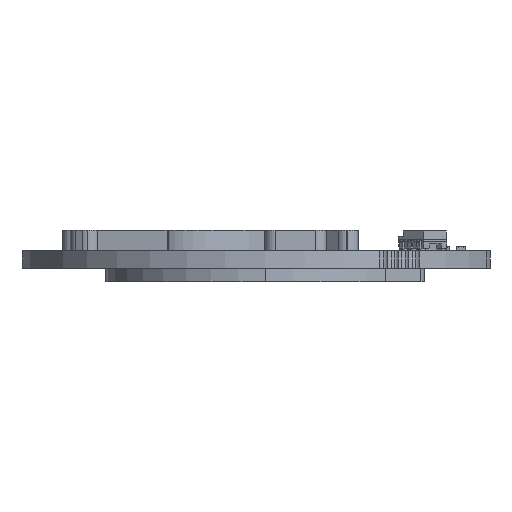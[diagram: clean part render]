
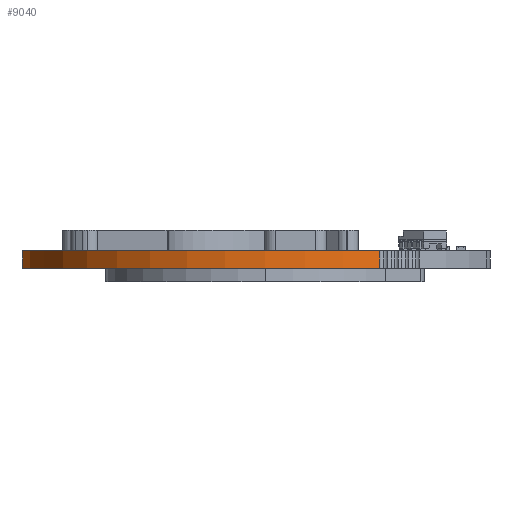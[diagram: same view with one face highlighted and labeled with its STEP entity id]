
A CAD part, left-side view. The second image highlights one B-rep face of the part: STEP entity #9040.
In plain terms, the highlighted cylindrical face has radius 22.4 mm (diameter 44.8 mm), a partial arc.
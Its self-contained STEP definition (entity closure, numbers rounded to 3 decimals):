
#1401 = ORIENTED_EDGE ( 'NONE', *, *, #11172, .F. ) ;
#2490 = EDGE_CURVE ( 'NONE', #2852, #10794, #36430, .T. ) ;
#2852 = VERTEX_POINT ( 'NONE', #13367 ) ;
#4410 = AXIS2_PLACEMENT_3D ( 'NONE', #5148, #50488, #13046 ) ;
#5148 = CARTESIAN_POINT ( 'NONE',  ( 0., 0., -1.6 ) ) ;
#7025 = CIRCLE ( 'NONE', #4410, 22.4 ) ;
#7050 = VERTEX_POINT ( 'NONE', #50037 ) ;
#7085 = DIRECTION ( 'NONE',  ( 0., 0., -1. ) ) ;
#9040 = ADVANCED_FACE ( 'NONE', ( #31120 ), #43679, .T. ) ;
#10794 = VERTEX_POINT ( 'NONE', #38597 ) ;
#11172 = EDGE_CURVE ( 'NONE', #7050, #53676, #54016, .T. ) ;
#13046 = DIRECTION ( 'NONE',  ( 0.42, -0.908, 0. ) ) ;
#13367 = CARTESIAN_POINT ( 'NONE',  ( -19.782, -10.508, -1.6 ) ) ;
#13799 = EDGE_CURVE ( 'NONE', #7050, #2852, #7025, .T. ) ;
#15205 = EDGE_LOOP ( 'NONE', ( #35042, #21605, #30652, #1401 ) ) ;
#15691 = EDGE_CURVE ( 'NONE', #53676, #10794, #32530, .T. ) ;
#18163 = VECTOR ( 'NONE', #24508, 1000. ) ;
#19877 = CARTESIAN_POINT ( 'NONE',  ( -2.156, 22.296, -1.6 ) ) ;
#21605 = ORIENTED_EDGE ( 'NONE', *, *, #2490, .T. ) ;
#23452 = DIRECTION ( 'NONE',  ( 0., 0., 1. ) ) ;
#24508 = DIRECTION ( 'NONE',  ( 0., 0., 1. ) ) ;
#30652 = ORIENTED_EDGE ( 'NONE', *, *, #15691, .F. ) ;
#30817 = CARTESIAN_POINT ( 'NONE',  ( -2.156, 22.296, 0. ) ) ;
#31120 = FACE_OUTER_BOUND ( 'NONE', #15205, .T. ) ;
#31669 = AXIS2_PLACEMENT_3D ( 'NONE', #35491, #23452, #52406 ) ;
#32530 = CIRCLE ( 'NONE', #31669, 22.4 ) ;
#33598 = AXIS2_PLACEMENT_3D ( 'NONE', #44201, #7085, #48836 ) ;
#35042 = ORIENTED_EDGE ( 'NONE', *, *, #13799, .T. ) ;
#35491 = CARTESIAN_POINT ( 'NONE',  ( 0., 0., 0. ) ) ;
#35861 = DIRECTION ( 'NONE',  ( 0., 0., 1. ) ) ;
#36430 = LINE ( 'NONE', #40262, #43320 ) ;
#38597 = CARTESIAN_POINT ( 'NONE',  ( -19.782, -10.508, 0. ) ) ;
#40262 = CARTESIAN_POINT ( 'NONE',  ( -19.782, -10.508, -1.6 ) ) ;
#43320 = VECTOR ( 'NONE', #35861, 1000. ) ;
#43679 = CYLINDRICAL_SURFACE ( 'NONE', #33598, 22.4 ) ;
#44201 = CARTESIAN_POINT ( 'NONE',  ( 0., 0., -1.6 ) ) ;
#48836 = DIRECTION ( 'NONE',  ( 0.42, -0.908, 0. ) ) ;
#50037 = CARTESIAN_POINT ( 'NONE',  ( -2.156, 22.296, -1.6 ) ) ;
#50488 = DIRECTION ( 'NONE',  ( 0., 0., 1. ) ) ;
#52406 = DIRECTION ( 'NONE',  ( 0.42, -0.908, 0. ) ) ;
#53676 = VERTEX_POINT ( 'NONE', #30817 ) ;
#54016 = LINE ( 'NONE', #19877, #18163 ) ;
